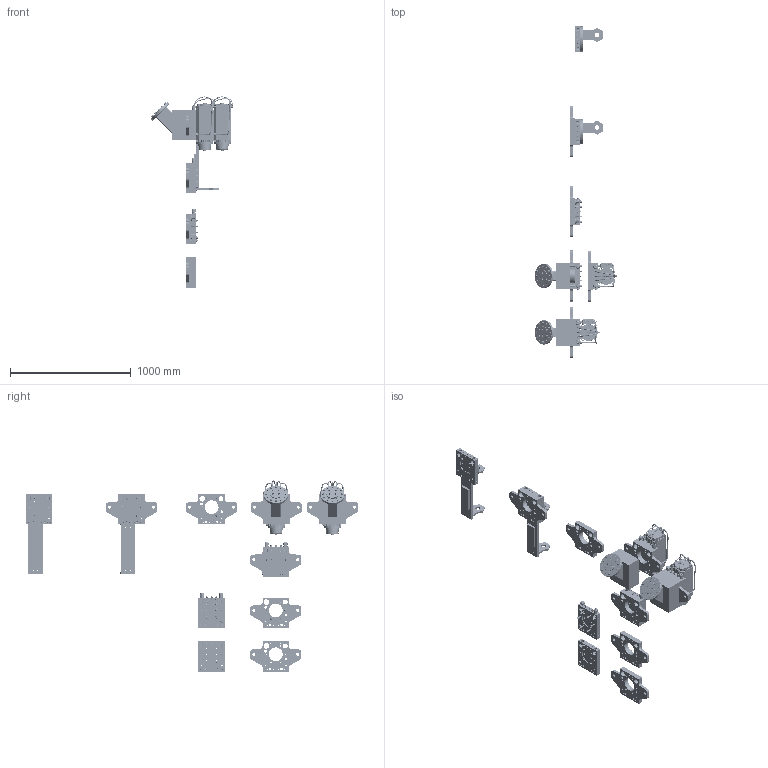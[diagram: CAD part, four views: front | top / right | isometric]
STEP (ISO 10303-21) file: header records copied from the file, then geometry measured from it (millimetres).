
FILE_DESCRIPTION(/* description */ (''),/* implementation_level */ '2;1');
FILE_NAME(/* name */ 'Robotor_Spindle_mounting_plate',/* time_stamp */ '2024-04-05T12:19:34+02:00',/* author */ (''),/* organization */ (''),/* preprocessor_version */ 'ST-DEVELOPER v16.5',/* originating_system */ 'Rhino 7.36',/* authorisation */ '');
FILE_SCHEMA (('AUTOMOTIVE_DESIGN'));
Products named in the file (37): Document; 550_TrayBrackets; Toolboss-ParkingPlate; Toolboss-MountPlate; C500_02; GIUNTO RAPIDO_01; VTCEI-M10x60-ISO4762-8.8-G; or_11_0x2_5-n70; or_18_0x2_5-n70; or_15_0x2_5-n70; or_45_0x2_5-n70; Wuerth_0241761215_DIN 908 acciaio zincato poll._LOD_High_1; KQ2H08_G02A; 6512 TUBØ12-3_8; Block 11; SPINA CIL -10 x 22 - A-ISO8734A; VTCEI-M10x40-ISO4762-8.8-G; PG21; VTCEI-M10x100-ISO4762-8.8-G; A500_01_F01; C500_05; C500_06; C500_07; VTCEI-M12x20-ISO4762-8.8-G; SPINA CIL -10 x 32 - A-ISO8734A; SPINA CIL -12 x 35 - A-ISO8734A; SPINA CIL -12 x 30 - A-ISO8734A; GIUNTO RAPIDO_02; Block 07; Block 06; C500_03; Block 01; Block 05; Block 08; Block 09; Block 10; A500_01_S01
Assembly tree (282 placements, depth 3):
  Document
    550_TrayBrackets  x4
    Toolboss-ParkingPlate  x2
    Toolboss-MountPlate  x2
    C500_02  x7
    GIUNTO RAPIDO_01  x7
    VTCEI-M10x60-ISO4762-8.8-G  x42
    or_11_0x2_5-n70  x24
    or_18_0x2_5-n70  x16
    or_15_0x2_5-n70  x16
    or_45_0x2_5-n70  x16
    Wuerth_0241761215_DIN 908 acciaio zincato poll._LOD_High_1  x12
    KQ2H08_G02A  x16
    6512 TUBØ12-3_8  x8
      Block 11
    SPINA CIL -10 x 22 - A-ISO8734A  x8
    VTCEI-M10x40-ISO4762-8.8-G  x24
    PG21  x8
    VTCEI-M10x100-ISO4762-8.8-G  x12
    A500_01_F01  x2
      C500_05
      C500_06
      C500_07
      VTCEI-M12x20-ISO4762-8.8-G
      VTCEI-M10x40-ISO4762-8.8-G
      SPINA CIL -10 x 32 - A-ISO8734A
      SPINA CIL -10 x 22 - A-ISO8734A
      SPINA CIL -12 x 35 - A-ISO8734A
      SPINA CIL -12 x 30 - A-ISO8734A
    GIUNTO RAPIDO_02  x2
    Block 07  x2
    Block 06  x2
    C500_03  x4
    Block 01  x2
    Block 05  x2
    Block 08  x2
    Block 09  x2
    Block 10  x2
    A500_01_S01  x2
Bounding box: 683.54 x 2753.48 x 1585.33 mm (x, y, z)
Volume: 53044487 mm3; surface area: 7428978.2 mm2
Topology: 494 solids, 682 shells, 21407 faces, 57344 edges, 36423 vertices
Faces by surface type: plane 10031, cylinder 7050, bspline 4326
Entity records: 476946 total; most frequent: CARTESIAN_POINT 207525, ORIENTED_EDGE 74804, EDGE_CURVE 37726, B_SPLINE_CURVE_WITH_KNOTS 25860, VERTEX_POINT 24409, EDGE_LOOP 15453, ADVANCED_FACE 13692, FACE_OUTER_BOUND 13692
